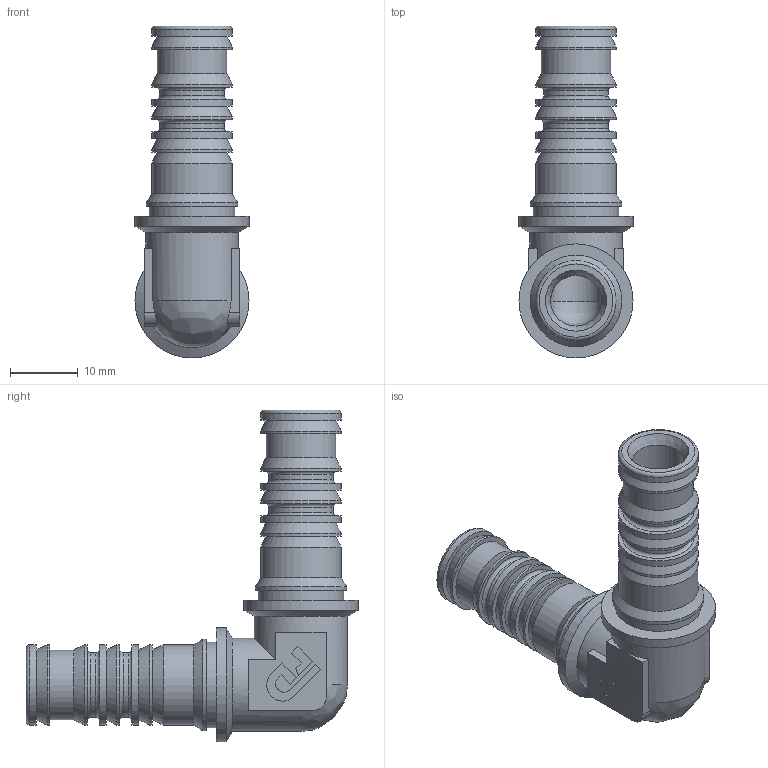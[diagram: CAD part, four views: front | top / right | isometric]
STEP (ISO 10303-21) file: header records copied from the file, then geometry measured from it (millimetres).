
FILE_DESCRIPTION(/* description */ (''),/* implementation_level */ '2;1');
FILE_NAME(/* name */ 'C:\Users\Doom\Desktop\Фадотех\Пресс\HDU01-1 15.01.2020\HDU01-1 15.01.2020.stp',/* time_stamp */ '2022-08-12T22:23:19+03:00',/* author */ ('Doom'),/* organization */ (''),/* preprocessor_version */ 'ST-DEVELOPER v18',/* originating_system */ 'Autodesk Inventor 2020',/* authorisation */ '');
FILE_SCHEMA (('AUTOMOTIVE_DESIGN { 1 0 10303 214 3 1 1 }'));
Length unit declared in the file: millimetre
Products named in the file (1): HDU01-1 15.01.2020
Bounding box: 16.8 x 48.9 x 48.9 mm (x, y, z)
Volume: 5983.7 mm3; surface area: 6037.4 mm2
Topology: 1 solids, 1 shells, 140 faces, 400 edges, 282 vertices
Faces by surface type: plane 66, cylinder 32, cone 22, torus 10, bspline 10
Full cylindrical faces by diameter (mm): 7.5 x2, 9.5 x4, 10.3 x2, 11.8 x16, 13.5 x2, 13.7 x2, 16.8 x2
Entity records: 4883 total; most frequent: CARTESIAN_POINT 1027, DIRECTION 828, ORIENTED_EDGE 796, EDGE_CURVE 398, AXIS2_PLACEMENT_3D 325, VERTEX_POINT 282, CIRCLE 191, LINE 178
